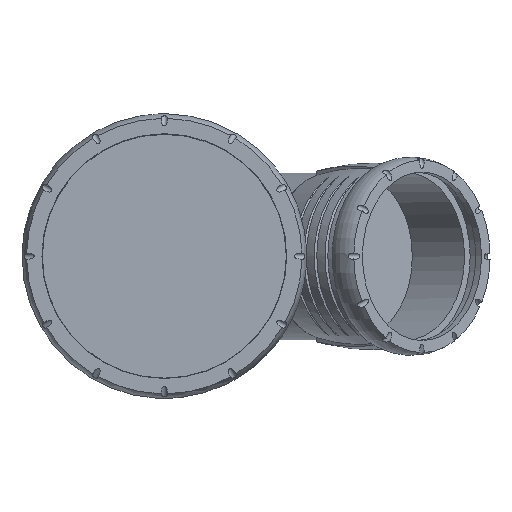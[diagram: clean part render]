
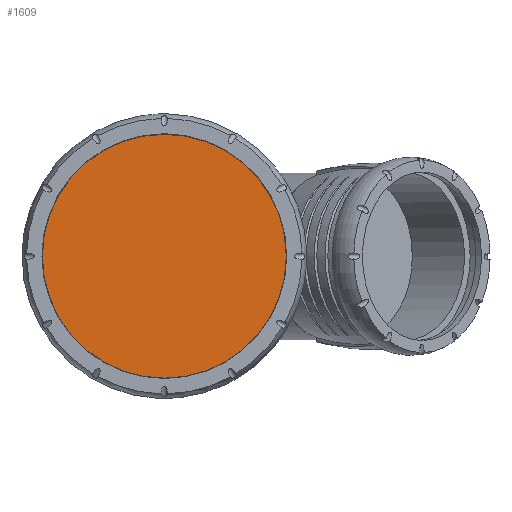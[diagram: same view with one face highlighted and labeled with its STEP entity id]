
A CAD part, top view. The second image highlights one B-rep face of the part: STEP entity #1609.
In plain terms, the highlighted planar face has unit normal (0, 0, 1).
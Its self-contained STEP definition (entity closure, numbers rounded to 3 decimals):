
#219=PLANE('',#1739);
#297=FACE_OUTER_BOUND('',#405,.T.);
#405=EDGE_LOOP('',(#1035));
#543=CIRCLE('',#1740,80.6);
#618=VERTEX_POINT('',#2351);
#790=EDGE_CURVE('',#618,#618,#543,.T.);
#1035=ORIENTED_EDGE('',*,*,#790,.T.);
#1609=ADVANCED_FACE('',(#297),#219,.T.);
#1739=AXIS2_PLACEMENT_3D('',#2350,#1934,#1935);
#1740=AXIS2_PLACEMENT_3D('',#2352,#1936,#1937);
#1934=DIRECTION('center_axis',(0.,0.,
1.));
#1935=DIRECTION('ref_axis',(0.,1.,0.));
#1936=DIRECTION('center_axis',(0.,0.,
1.));
#1937=DIRECTION('ref_axis',(0.,1.,0.));
#2350=CARTESIAN_POINT('Origin',(0.,0.,
257.87));
#2351=CARTESIAN_POINT('',(-80.6,0.,257.87));
#2352=CARTESIAN_POINT('Origin',(0.,0.,
257.87));
